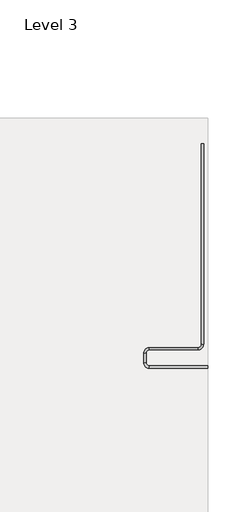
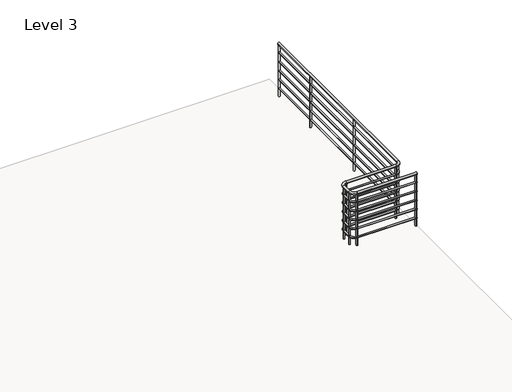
# One storey, part 3 of 4: 1 railing.
"""IFC4 building model written with IfcOpenShell, lengths in millimetres."""

from ifc_helpers import new_model, si_unit, point, frame, frame_2d, origin, place, context, project, spatial, circle_curve, ellipse_curve, trimmed, segment, composite_curve, outline, extrude, element, save
from ifc_brep_helpers import plane_surface, cylinder_surface, revolved_surface, advanced_brep

model = new_model("IFC4")

# Units and contexts
model_context = context("Model", 3, world=origin())
ifc_project = project(units=[si_unit("LENGTHUNIT", "METRE", prefix="MILLI")], contexts=[model_context])

# Site, building, storey
site = spatial("IfcSite", under=ifc_project)
building = spatial("IfcBuilding", under=site)
storey = spatial("IfcBuildingStorey", under=building, Name="Level 3", Elevation=7315.2)

# Railing
placement = place(None, origin())
element("IfcRailing", 1, ObjectType="Handrail - Pipe", at=placement, inside=storey, context=model_context, shape_type="SolidModel", body=[
    advanced_brep(
    [(18023.4049721, 512.0273319, 8210.55), (18023.4049721, 473.9273319, 8210.55), (17058.2049721, 512.0273319, 8210.55), (17058.2049721, 473.9273319, 8210.55), (16962.9549721, 569.1773319, 8210.55), (17001.0549721, 569.1773319, 8210.55), (17001.0549721, 721.5773319, 8210.55), (16962.9549721, 721.5773319, 8210.55), (17058.2049721, 816.8273319, 8210.55), (17058.2049721, 778.7273319, 8210.55), (17861.7339721, 778.7273319, 8210.55), (17861.7339721, 816.8273319, 8210.55), (17956.9839721, 4202.9648319, 8210.55), (17918.8839721, 4202.9648319, 8210.55), (17918.8839721, 873.9773319, 8210.55), (17956.9839721, 873.9773319, 8210.55)],
    [
        (0, 1, circle_curve(frame((18023.4049721, 492.9773319, 8210.55), z_axis=(1.0, 0.0, 0.0), x_axis=(0.0, -1.0, 0.0)), 19.05)),
        (1, 0, circle_curve(frame((18023.4049721, 492.9773319, 8210.55), z_axis=(1.0, 0.0, 0.0), x_axis=(0.0, -1.0, 0.0)), 19.05)),
        (0, 2),
        (2, 3, circle_curve(frame((17058.2049721, 492.9773319, 8210.55), z_axis=(1.0, 0.0, 0.0), x_axis=(0.0, -1.0, 0.0)), 19.05)),
        (3, 1),
        (3, 2, circle_curve(frame((17058.2049721, 492.9773319, 8210.55), z_axis=(1.0, 0.0, 0.0), x_axis=(0.0, -1.0, 0.0)), 19.05)),
        (4, 5, circle_curve(frame((16982.0049721, 569.1773319, 8210.55), z_axis=(0.0, 1.0, 0.0), x_axis=(-1.0, 0.0, 0.0)), 19.05)),
        (5, 6),
        (6, 7, circle_curve(frame((16982.0049721, 721.5773319, 8210.55), z_axis=(0.0, -1.0, 0.0), x_axis=(-1.0, 0.0, 0.0)), 19.05)),
        (7, 4),
        (5, 4, circle_curve(frame((16982.0049721, 569.1773319, 8210.55), z_axis=(0.0, 1.0, 0.0), x_axis=(-1.0, 0.0, 0.0)), 19.05)),
        (7, 6, circle_curve(frame((16982.0049721, 721.5773319, 8210.55), z_axis=(0.0, -1.0, 0.0), x_axis=(-1.0, 0.0, 0.0)), 19.05)),
        (8, 9, circle_curve(frame((17058.2049721, 797.7773319, 8210.55), z_axis=(1.0, 0.0, 0.0), x_axis=(0.0, 1.0, 0.0)), 19.05)),
        (9, 10),
        (10, 11, circle_curve(frame((17861.7339721, 797.7773319, 8210.55), z_axis=(-1.0, 0.0, 0.0), x_axis=(0.0, 1.0, 0.0)), 19.05)),
        (11, 8),
        (9, 8, circle_curve(frame((17058.2049721, 797.7773319, 8210.55), z_axis=(1.0, 0.0, 0.0), x_axis=(0.0, 1.0, 0.0)), 19.05)),
        (11, 10, circle_curve(frame((17861.7339721, 797.7773319, 8210.55), z_axis=(-1.0, 0.0, 0.0), x_axis=(0.0, 1.0, 0.0)), 19.05)),
        (12, 13, circle_curve(frame((17937.9339721, 4202.9648319, 8210.55), z_axis=(0.0, 1.0, 0.0), x_axis=(-1.0, 0.0, 0.0)), 19.05)),
        (13, 12, circle_curve(frame((17937.9339721, 4202.9648319, 8210.55), z_axis=(0.0, 1.0, 0.0), x_axis=(-1.0, 0.0, 0.0)), 19.05)),
        (14, 15, circle_curve(frame((17937.9339721, 873.9773319, 8210.55), z_axis=(0.0, 1.0, 0.0), x_axis=(-1.0, 0.0, 0.0)), 19.05)),
        (15, 12),
        (13, 14),
        (15, 14, circle_curve(frame((17937.9339721, 873.9773319, 8210.55), z_axis=(0.0, 1.0, 0.0), x_axis=(-1.0, 0.0, 0.0)), 19.05)),
        (4, 3, circle_curve(frame((17058.2049721, 569.1773319, 8210.55), z_axis=(0.0, 0.0, 1.0), x_axis=(0.0, -1.0, 0.0)), 95.25)),
        (2, 5, circle_curve(frame((17058.2049721, 569.1773319, 8210.55), z_axis=(0.0, 0.0, -1.0), x_axis=(0.0, -1.0, 0.0)), 57.15)),
        (8, 7, circle_curve(frame((17058.2049721, 721.5773319, 8210.55), z_axis=(0.0, 0.0, 1.0), x_axis=(-1.0, 0.0, 0.0)), 95.25)),
        (6, 9, circle_curve(frame((17058.2049721, 721.5773319, 8210.55), z_axis=(0.0, 0.0, -1.0), x_axis=(-1.0, 0.0, 0.0)), 57.15)),
        (14, 11, circle_curve(frame((17861.7339721, 873.9773319, 8210.55), z_axis=(0.0, 0.0, -1.0), x_axis=(0.0, -1.0, 0.0)), 57.15)),
        (10, 15, circle_curve(frame((17861.7339721, 873.9773319, 8210.55), z_axis=(0.0, 0.0, 1.0), x_axis=(0.0, -1.0, 0.0)), 95.25)),
    ],
    [
        plane_surface(frame((18023.4049721, 492.9773319, 8229.6), z_axis=(1.0, 0.0, 0.0), x_axis=(0.0, -1.0, 0.0))),
        cylinder_surface(frame((18023.4049721, 492.9773319, 8210.55), z_axis=(1.0, 0.0, 0.0), x_axis=(0.0, -1.0, 0.0)), 19.05),
        cylinder_surface(frame((16982.0049721, 569.1773319, 8210.55), z_axis=(0.0, -1.0, 0.0), x_axis=(-1.0, 0.0, 0.0)), 19.05),
        cylinder_surface(frame((17058.2049721, 797.7773319, 8210.55), z_axis=(-1.0, 0.0, 0.0), x_axis=(0.0, 1.0, 0.0)), 19.05),
        plane_surface(frame((17937.9339721, 4202.9648319, 8229.6), z_axis=(0.0, 1.0, 0.0), x_axis=(0.0, 0.0, 1.0))),
        cylinder_surface(frame((17937.9339721, 873.9773319, 8210.55), z_axis=(0.0, -1.0, 0.0), x_axis=(-1.0, 0.0, 0.0)), 19.05),
        revolved_surface(trimmed(ellipse_curve(frame((17058.2049721, 492.9773319, 8210.55), z_axis=(1.0, 0.0, 0.0), x_axis=(0.0, -1.0, 0.0)), 19.05, 19.05), [point((17058.2049721, 512.0273319, 8210.55))], [point((17058.2049721, 473.9273319, 8210.55))], True, "CARTESIAN"), (17058.2049721, 569.1773319, 8229.6), (0.0, 0.0, -1.0)),
        revolved_surface(trimmed(ellipse_curve(frame((17058.2049721, 492.9773319, 8210.55), z_axis=(1.0, 0.0, 0.0), x_axis=(0.0, -1.0, 0.0)), 19.05, 19.05), [point((17058.2049721, 473.9273319, 8210.55))], [point((17058.2049721, 512.0273319, 8210.55))], True, "CARTESIAN"), (17058.2049721, 569.1773319, 8229.6), (0.0, 0.0, -1.0)),
        revolved_surface(trimmed(ellipse_curve(frame((16982.0049721, 721.5773319, 8210.55), z_axis=(0.0, -1.0, 0.0), x_axis=(-1.0, 0.0, 0.0)), 19.05, 19.05), [point((17001.0549721, 721.5773319, 8210.55))], [point((16962.9549721, 721.5773319, 8210.55))], True, "CARTESIAN"), (17058.2049721, 721.5773319, 8229.6), (0.0, 0.0, -1.0)),
        revolved_surface(trimmed(ellipse_curve(frame((16982.0049721, 721.5773319, 8210.55), z_axis=(0.0, -1.0, 0.0), x_axis=(-1.0, 0.0, 0.0)), 19.05, 19.05), [point((16962.9549721, 721.5773319, 8210.55))], [point((17001.0549721, 721.5773319, 8210.55))], True, "CARTESIAN"), (17058.2049721, 721.5773319, 8229.6), (0.0, 0.0, -1.0)),
        revolved_surface(trimmed(ellipse_curve(frame((17861.7339721, 797.7773319, 8210.55), z_axis=(-1.0, 0.0, 0.0), x_axis=(0.0, 1.0, 0.0)), 19.05, 19.05), [point((17861.7339721, 778.7273319, 8210.55))], [point((17861.7339721, 816.8273319, 8210.55))], True, "CARTESIAN"), (17861.7339721, 873.9773319, 8229.6), (0.0, 0.0, 1.0)),
        revolved_surface(trimmed(ellipse_curve(frame((17861.7339721, 797.7773319, 8210.55), z_axis=(-1.0, 0.0, 0.0), x_axis=(0.0, 1.0, 0.0)), 19.05, 19.05), [point((17861.7339721, 816.8273319, 8210.55))], [point((17861.7339721, 778.7273319, 8210.55))], True, "CARTESIAN"), (17861.7339721, 873.9773319, 8229.6), (0.0, 0.0, 1.0)),
    ],
    [
        (0, [[1, 2]]),
        (1, [[-1, 3, 4, 5]]),
        (1, [[-2, -5, 6, -3]]),
        (2, [[7, 8, 9, 10]]),
        (2, [[11, -10, 12, -8]]),
        (3, [[13, 14, 15, 16]]),
        (3, [[17, -16, 18, -14]]),
        (4, [[19, 20]]),
        (5, [[21, 22, -20, 23]]),
        (5, [[24, -23, -19, -22]]),
        (6, [[25, -4, 26, -7]]),
        (7, [[-26, -6, -25, -11]]),
        (8, [[27, -9, 28, -13]]),
        (9, [[-28, -12, -27, -17]]),
        (10, [[29, -15, 30, -21]]),
        (11, [[-30, -18, -29, -24]]),
    ],
),
    advanced_brep(
    [(18023.4049721, 505.6773319, 8064.5), (18023.4049721, 480.2773319, 8064.5), (17058.2049721, 480.2773319, 8064.5), (17058.2049721, 505.6773319, 8064.5), (16994.7049721, 569.1773319, 8064.5), (16969.3049721, 569.1773319, 8064.5), (16969.3049721, 721.5773319, 8064.5), (16994.7049721, 721.5773319, 8064.5), (17058.2049721, 785.0773319, 8064.5), (17058.2049721, 810.4773319, 8064.5), (17861.7339721, 810.4773319, 8064.5), (17861.7339721, 785.0773319, 8064.5), (17950.6339721, 4202.9648319, 8064.5), (17925.2339721, 4202.9648319, 8064.5), (17950.6339721, 873.9773319, 8064.5), (17925.2339721, 873.9773319, 8064.5)],
    [
        (0, 1, circle_curve(frame((18023.4049721, 492.9773319, 8064.5), z_axis=(1.0, 0.0, 0.0), x_axis=(0.0, -1.0, 0.0)), 12.7)),
        (1, 0, circle_curve(frame((18023.4049721, 492.9773319, 8064.5), z_axis=(1.0, 0.0, 0.0), x_axis=(0.0, -1.0, 0.0)), 12.7)),
        (1, 2),
        (2, 3, circle_curve(frame((17058.2049721, 492.9773319, 8064.5), z_axis=(1.0, 0.0, 0.0), x_axis=(0.0, -1.0, 0.0)), 12.7)),
        (3, 0),
        (3, 2, circle_curve(frame((17058.2049721, 492.9773319, 8064.5), z_axis=(1.0, 0.0, 0.0), x_axis=(0.0, -1.0, 0.0)), 12.7)),
        (4, 5, circle_curve(frame((16982.0049721, 569.1773319, 8064.5), z_axis=(0.0, 1.0, 0.0), x_axis=(-1.0, 0.0, 0.0)), 12.7)),
        (5, 6),
        (6, 7, circle_curve(frame((16982.0049721, 721.5773319, 8064.5), z_axis=(0.0, -1.0, 0.0), x_axis=(-1.0, 0.0, 0.0)), 12.7)),
        (7, 4),
        (5, 4, circle_curve(frame((16982.0049721, 569.1773319, 8064.5), z_axis=(0.0, 1.0, 0.0), x_axis=(-1.0, 0.0, 0.0)), 12.7)),
        (7, 6, circle_curve(frame((16982.0049721, 721.5773319, 8064.5), z_axis=(0.0, -1.0, 0.0), x_axis=(-1.0, 0.0, 0.0)), 12.7)),
        (8, 9, circle_curve(frame((17058.2049721, 797.7773319, 8064.5), z_axis=(1.0, 0.0, 0.0), x_axis=(0.0, 1.0, 0.0)), 12.7)),
        (9, 10),
        (10, 11, circle_curve(frame((17861.7339721, 797.7773319, 8064.5), z_axis=(-1.0, 0.0, 0.0), x_axis=(0.0, 1.0, 0.0)), 12.7)),
        (11, 8),
        (9, 8, circle_curve(frame((17058.2049721, 797.7773319, 8064.5), z_axis=(1.0, 0.0, 0.0), x_axis=(0.0, 1.0, 0.0)), 12.7)),
        (11, 10, circle_curve(frame((17861.7339721, 797.7773319, 8064.5), z_axis=(-1.0, 0.0, 0.0), x_axis=(0.0, 1.0, 0.0)), 12.7)),
        (12, 13, circle_curve(frame((17937.9339721, 4202.9648319, 8064.5), z_axis=(0.0, 1.0, 0.0), x_axis=(-1.0, 0.0, 0.0)), 12.7)),
        (13, 12, circle_curve(frame((17937.9339721, 4202.9648319, 8064.5), z_axis=(0.0, 1.0, 0.0), x_axis=(-1.0, 0.0, 0.0)), 12.7)),
        (14, 15, circle_curve(frame((17937.9339721, 873.9773319, 8064.5), z_axis=(0.0, 1.0, 0.0), x_axis=(-1.0, 0.0, 0.0)), 12.7)),
        (15, 13),
        (12, 14),
        (15, 14, circle_curve(frame((17937.9339721, 873.9773319, 8064.5), z_axis=(0.0, 1.0, 0.0), x_axis=(-1.0, 0.0, 0.0)), 12.7)),
        (4, 3, circle_curve(frame((17058.2049721, 569.1773319, 8064.5), z_axis=(0.0, 0.0, 1.0), x_axis=(0.0, -1.0, 0.0)), 63.5)),
        (2, 5, circle_curve(frame((17058.2049721, 569.1773319, 8064.5), z_axis=(0.0, 0.0, -1.0), x_axis=(0.0, -1.0, 0.0)), 88.9)),
        (8, 7, circle_curve(frame((17058.2049721, 721.5773319, 8064.5), z_axis=(0.0, 0.0, 1.0), x_axis=(-1.0, 0.0, 0.0)), 63.5)),
        (6, 9, circle_curve(frame((17058.2049721, 721.5773319, 8064.5), z_axis=(0.0, 0.0, -1.0), x_axis=(-1.0, 0.0, 0.0)), 88.9)),
        (14, 11, circle_curve(frame((17861.7339721, 873.9773319, 8064.5), z_axis=(0.0, 0.0, -1.0), x_axis=(0.0, -1.0, 0.0)), 88.9)),
        (10, 15, circle_curve(frame((17861.7339721, 873.9773319, 8064.5), z_axis=(0.0, 0.0, 1.0), x_axis=(0.0, -1.0, 0.0)), 63.5)),
    ],
    [
        plane_surface(frame((18023.4049721, 492.9773319, 8077.2), z_axis=(1.0, 0.0, 0.0), x_axis=(0.0, -1.0, 0.0))),
        cylinder_surface(frame((18023.4049721, 492.9773319, 8064.5), z_axis=(1.0, 0.0, 0.0), x_axis=(0.0, -1.0, 0.0)), 12.7),
        cylinder_surface(frame((16982.0049721, 569.1773319, 8064.5), z_axis=(0.0, -1.0, 0.0), x_axis=(-1.0, 0.0, 0.0)), 12.7),
        cylinder_surface(frame((17058.2049721, 797.7773319, 8064.5), z_axis=(-1.0, 0.0, 0.0), x_axis=(0.0, 1.0, 0.0)), 12.7),
        plane_surface(frame((17937.9339721, 4202.9648319, 8077.2), z_axis=(0.0, 1.0, 0.0), x_axis=(0.0, 0.0, 1.0))),
        cylinder_surface(frame((17937.9339721, 873.9773319, 8064.5), z_axis=(0.0, -1.0, 0.0), x_axis=(-1.0, 0.0, 0.0)), 12.7),
        revolved_surface(trimmed(ellipse_curve(frame((17058.2049721, 492.9773319, 8064.5), z_axis=(1.0, 0.0, 0.0), x_axis=(0.0, -1.0, 0.0)), 12.7, 12.7), [point((17058.2049721, 480.2773319, 8064.5))], [point((17058.2049721, 505.6773319, 8064.5))], True, "CARTESIAN"), (17058.2049721, 569.1773319, 8077.2), (0.0, 0.0, -1.0)),
        revolved_surface(trimmed(ellipse_curve(frame((17058.2049721, 492.9773319, 8064.5), z_axis=(1.0, 0.0, 0.0), x_axis=(0.0, -1.0, 0.0)), 12.7, 12.7), [point((17058.2049721, 505.6773319, 8064.5))], [point((17058.2049721, 480.2773319, 8064.5))], True, "CARTESIAN"), (17058.2049721, 569.1773319, 8077.2), (0.0, 0.0, -1.0)),
        revolved_surface(trimmed(ellipse_curve(frame((16982.0049721, 721.5773319, 8064.5), z_axis=(0.0, -1.0, 0.0), x_axis=(-1.0, 0.0, 0.0)), 12.7, 12.7), [point((16969.3049721, 721.5773319, 8064.5))], [point((16994.7049721, 721.5773319, 8064.5))], True, "CARTESIAN"), (17058.2049721, 721.5773319, 8077.2), (0.0, 0.0, -1.0)),
        revolved_surface(trimmed(ellipse_curve(frame((16982.0049721, 721.5773319, 8064.5), z_axis=(0.0, -1.0, 0.0), x_axis=(-1.0, 0.0, 0.0)), 12.7, 12.7), [point((16994.7049721, 721.5773319, 8064.5))], [point((16969.3049721, 721.5773319, 8064.5))], True, "CARTESIAN"), (17058.2049721, 721.5773319, 8077.2), (0.0, 0.0, -1.0)),
        revolved_surface(trimmed(ellipse_curve(frame((17861.7339721, 797.7773319, 8064.5), z_axis=(-1.0, 0.0, 0.0), x_axis=(0.0, 1.0, 0.0)), 12.7, 12.7), [point((17861.7339721, 810.4773319, 8064.5))], [point((17861.7339721, 785.0773319, 8064.5))], True, "CARTESIAN"), (17861.7339721, 873.9773319, 8077.2), (0.0, 0.0, 1.0)),
        revolved_surface(trimmed(ellipse_curve(frame((17861.7339721, 797.7773319, 8064.5), z_axis=(-1.0, 0.0, 0.0), x_axis=(0.0, 1.0, 0.0)), 12.7, 12.7), [point((17861.7339721, 785.0773319, 8064.5))], [point((17861.7339721, 810.4773319, 8064.5))], True, "CARTESIAN"), (17861.7339721, 873.9773319, 8077.2), (0.0, 0.0, 1.0)),
    ],
    [
        (0, [[1, 2]]),
        (1, [[-2, 3, 4, 5]]),
        (1, [[-1, -5, 6, -3]]),
        (2, [[7, 8, 9, 10]]),
        (2, [[11, -10, 12, -8]]),
        (3, [[13, 14, 15, 16]]),
        (3, [[17, -16, 18, -14]]),
        (4, [[19, 20]]),
        (5, [[21, 22, -19, 23]]),
        (5, [[24, -23, -20, -22]]),
        (6, [[25, -4, 26, -7]]),
        (7, [[-26, -6, -25, -11]]),
        (8, [[27, -9, 28, -13]]),
        (9, [[-28, -12, -27, -17]]),
        (10, [[29, -15, 30, -21]]),
        (11, [[-30, -18, -29, -24]]),
    ],
),
    advanced_brep(
    [(18023.4049721, 505.6773319, 7912.1), (18023.4049721, 480.2773319, 7912.1), (17058.2049721, 480.2773319, 7912.1), (17058.2049721, 505.6773319, 7912.1), (16994.7049721, 569.1773319, 7912.1), (16969.3049721, 569.1773319, 7912.1), (16969.3049721, 721.5773319, 7912.1), (16994.7049721, 721.5773319, 7912.1), (17058.2049721, 785.0773319, 7912.1), (17058.2049721, 810.4773319, 7912.1), (17861.7339721, 810.4773319, 7912.1), (17861.7339721, 785.0773319, 7912.1), (17950.6339721, 4202.9648319, 7912.1), (17925.2339721, 4202.9648319, 7912.1), (17950.6339721, 873.9773319, 7912.1), (17925.2339721, 873.9773319, 7912.1)],
    [
        (0, 1, circle_curve(frame((18023.4049721, 492.9773319, 7912.1), z_axis=(1.0, 0.0, 0.0), x_axis=(0.0, -1.0, 0.0)), 12.7)),
        (1, 0, circle_curve(frame((18023.4049721, 492.9773319, 7912.1), z_axis=(1.0, 0.0, 0.0), x_axis=(0.0, -1.0, 0.0)), 12.7)),
        (1, 2),
        (2, 3, circle_curve(frame((17058.2049721, 492.9773319, 7912.1), z_axis=(1.0, 0.0, 0.0), x_axis=(0.0, -1.0, 0.0)), 12.7)),
        (3, 0),
        (3, 2, circle_curve(frame((17058.2049721, 492.9773319, 7912.1), z_axis=(1.0, 0.0, 0.0), x_axis=(0.0, -1.0, 0.0)), 12.7)),
        (4, 5, circle_curve(frame((16982.0049721, 569.1773319, 7912.1), z_axis=(0.0, 1.0, 0.0), x_axis=(-1.0, 0.0, 0.0)), 12.7)),
        (5, 6),
        (6, 7, circle_curve(frame((16982.0049721, 721.5773319, 7912.1), z_axis=(0.0, -1.0, 0.0), x_axis=(-1.0, 0.0, 0.0)), 12.7)),
        (7, 4),
        (5, 4, circle_curve(frame((16982.0049721, 569.1773319, 7912.1), z_axis=(0.0, 1.0, 0.0), x_axis=(-1.0, 0.0, 0.0)), 12.7)),
        (7, 6, circle_curve(frame((16982.0049721, 721.5773319, 7912.1), z_axis=(0.0, -1.0, 0.0), x_axis=(-1.0, 0.0, 0.0)), 12.7)),
        (8, 9, circle_curve(frame((17058.2049721, 797.7773319, 7912.1), z_axis=(1.0, 0.0, 0.0), x_axis=(0.0, 1.0, 0.0)), 12.7)),
        (9, 10),
        (10, 11, circle_curve(frame((17861.7339721, 797.7773319, 7912.1), z_axis=(-1.0, 0.0, 0.0), x_axis=(0.0, 1.0, 0.0)), 12.7)),
        (11, 8),
        (9, 8, circle_curve(frame((17058.2049721, 797.7773319, 7912.1), z_axis=(1.0, 0.0, 0.0), x_axis=(0.0, 1.0, 0.0)), 12.7)),
        (11, 10, circle_curve(frame((17861.7339721, 797.7773319, 7912.1), z_axis=(-1.0, 0.0, 0.0), x_axis=(0.0, 1.0, 0.0)), 12.7)),
        (12, 13, circle_curve(frame((17937.9339721, 4202.9648319, 7912.1), z_axis=(0.0, 1.0, 0.0), x_axis=(-1.0, 0.0, 0.0)), 12.7)),
        (13, 12, circle_curve(frame((17937.9339721, 4202.9648319, 7912.1), z_axis=(0.0, 1.0, 0.0), x_axis=(-1.0, 0.0, 0.0)), 12.7)),
        (14, 15, circle_curve(frame((17937.9339721, 873.9773319, 7912.1), z_axis=(0.0, 1.0, 0.0), x_axis=(-1.0, 0.0, 0.0)), 12.7)),
        (15, 13),
        (12, 14),
        (15, 14, circle_curve(frame((17937.9339721, 873.9773319, 7912.1), z_axis=(0.0, 1.0, 0.0), x_axis=(-1.0, 0.0, 0.0)), 12.7)),
        (4, 3, circle_curve(frame((17058.2049721, 569.1773319, 7912.1), z_axis=(0.0, 0.0, 1.0), x_axis=(0.0, -1.0, 0.0)), 63.5)),
        (2, 5, circle_curve(frame((17058.2049721, 569.1773319, 7912.1), z_axis=(0.0, 0.0, -1.0), x_axis=(0.0, -1.0, 0.0)), 88.9)),
        (8, 7, circle_curve(frame((17058.2049721, 721.5773319, 7912.1), z_axis=(0.0, 0.0, 1.0), x_axis=(-1.0, 0.0, 0.0)), 63.5)),
        (6, 9, circle_curve(frame((17058.2049721, 721.5773319, 7912.1), z_axis=(0.0, 0.0, -1.0), x_axis=(-1.0, 0.0, 0.0)), 88.9)),
        (14, 11, circle_curve(frame((17861.7339721, 873.9773319, 7912.1), z_axis=(0.0, 0.0, -1.0), x_axis=(0.0, -1.0, 0.0)), 88.9)),
        (10, 15, circle_curve(frame((17861.7339721, 873.9773319, 7912.1), z_axis=(0.0, 0.0, 1.0), x_axis=(0.0, -1.0, 0.0)), 63.5)),
    ],
    [
        plane_surface(frame((18023.4049721, 492.9773319, 7924.8), z_axis=(1.0, 0.0, 0.0), x_axis=(0.0, -1.0, 0.0))),
        cylinder_surface(frame((18023.4049721, 492.9773319, 7912.1), z_axis=(1.0, 0.0, 0.0), x_axis=(0.0, -1.0, 0.0)), 12.7),
        cylinder_surface(frame((16982.0049721, 569.1773319, 7912.1), z_axis=(0.0, -1.0, 0.0), x_axis=(-1.0, 0.0, 0.0)), 12.7),
        cylinder_surface(frame((17058.2049721, 797.7773319, 7912.1), z_axis=(-1.0, 0.0, 0.0), x_axis=(0.0, 1.0, 0.0)), 12.7),
        plane_surface(frame((17937.9339721, 4202.9648319, 7924.8), z_axis=(0.0, 1.0, 0.0), x_axis=(0.0, 0.0, 1.0))),
        cylinder_surface(frame((17937.9339721, 873.9773319, 7912.1), z_axis=(0.0, -1.0, 0.0), x_axis=(-1.0, 0.0, 0.0)), 12.7),
        revolved_surface(trimmed(ellipse_curve(frame((17058.2049721, 492.9773319, 7912.1), z_axis=(1.0, 0.0, 0.0), x_axis=(0.0, -1.0, 0.0)), 12.7, 12.7), [point((17058.2049721, 480.2773319, 7912.1))], [point((17058.2049721, 505.6773319, 7912.1))], True, "CARTESIAN"), (17058.2049721, 569.1773319, 7924.8), (0.0, 0.0, -1.0)),
        revolved_surface(trimmed(ellipse_curve(frame((17058.2049721, 492.9773319, 7912.1), z_axis=(1.0, 0.0, 0.0), x_axis=(0.0, -1.0, 0.0)), 12.7, 12.7), [point((17058.2049721, 505.6773319, 7912.1))], [point((17058.2049721, 480.2773319, 7912.1))], True, "CARTESIAN"), (17058.2049721, 569.1773319, 7924.8), (0.0, 0.0, -1.0)),
        revolved_surface(trimmed(ellipse_curve(frame((16982.0049721, 721.5773319, 7912.1), z_axis=(0.0, -1.0, 0.0), x_axis=(-1.0, 0.0, 0.0)), 12.7, 12.7), [point((16969.3049721, 721.5773319, 7912.1))], [point((16994.7049721, 721.5773319, 7912.1))], True, "CARTESIAN"), (17058.2049721, 721.5773319, 7924.8), (0.0, 0.0, -1.0)),
        revolved_surface(trimmed(ellipse_curve(frame((16982.0049721, 721.5773319, 7912.1), z_axis=(0.0, -1.0, 0.0), x_axis=(-1.0, 0.0, 0.0)), 12.7, 12.7), [point((16994.7049721, 721.5773319, 7912.1))], [point((16969.3049721, 721.5773319, 7912.1))], True, "CARTESIAN"), (17058.2049721, 721.5773319, 7924.8), (0.0, 0.0, -1.0)),
        revolved_surface(trimmed(ellipse_curve(frame((17861.7339721, 797.7773319, 7912.1), z_axis=(-1.0, 0.0, 0.0), x_axis=(0.0, 1.0, 0.0)), 12.7, 12.7), [point((17861.7339721, 810.4773319, 7912.1))], [point((17861.7339721, 785.0773319, 7912.1))], True, "CARTESIAN"), (17861.7339721, 873.9773319, 7924.8), (0.0, 0.0, 1.0)),
        revolved_surface(trimmed(ellipse_curve(frame((17861.7339721, 797.7773319, 7912.1), z_axis=(-1.0, 0.0, 0.0), x_axis=(0.0, 1.0, 0.0)), 12.7, 12.7), [point((17861.7339721, 785.0773319, 7912.1))], [point((17861.7339721, 810.4773319, 7912.1))], True, "CARTESIAN"), (17861.7339721, 873.9773319, 7924.8), (0.0, 0.0, 1.0)),
    ],
    [
        (0, [[1, 2]]),
        (1, [[-2, 3, 4, 5]]),
        (1, [[-1, -5, 6, -3]]),
        (2, [[7, 8, 9, 10]]),
        (2, [[11, -10, 12, -8]]),
        (3, [[13, 14, 15, 16]]),
        (3, [[17, -16, 18, -14]]),
        (4, [[19, 20]]),
        (5, [[21, 22, -19, 23]]),
        (5, [[24, -23, -20, -22]]),
        (6, [[25, -4, 26, -7]]),
        (7, [[-26, -6, -25, -11]]),
        (8, [[27, -9, 28, -13]]),
        (9, [[-28, -12, -27, -17]]),
        (10, [[29, -15, 30, -21]]),
        (11, [[-30, -18, -29, -24]]),
    ],
),
    advanced_brep(
    [(18023.4049721, 505.6773319, 7759.7), (18023.4049721, 480.2773319, 7759.7), (17058.2049721, 480.2773319, 7759.7), (17058.2049721, 505.6773319, 7759.7), (16994.7049721, 569.1773319, 7759.7), (16969.3049721, 569.1773319, 7759.7), (16969.3049721, 721.5773319, 7759.7), (16994.7049721, 721.5773319, 7759.7), (17058.2049721, 785.0773319, 7759.7), (17058.2049721, 810.4773319, 7759.7), (17861.7339721, 810.4773319, 7759.7), (17861.7339721, 785.0773319, 7759.7), (17950.6339721, 4202.9648319, 7759.7), (17925.2339721, 4202.9648319, 7759.7), (17950.6339721, 873.9773319, 7759.7), (17925.2339721, 873.9773319, 7759.7)],
    [
        (0, 1, circle_curve(frame((18023.4049721, 492.9773319, 7759.7), z_axis=(1.0, 0.0, 0.0), x_axis=(0.0, -1.0, 0.0)), 12.7)),
        (1, 0, circle_curve(frame((18023.4049721, 492.9773319, 7759.7), z_axis=(1.0, 0.0, 0.0), x_axis=(0.0, -1.0, 0.0)), 12.7)),
        (1, 2),
        (2, 3, circle_curve(frame((17058.2049721, 492.9773319, 7759.7), z_axis=(1.0, 0.0, 0.0), x_axis=(0.0, -1.0, 0.0)), 12.7)),
        (3, 0),
        (3, 2, circle_curve(frame((17058.2049721, 492.9773319, 7759.7), z_axis=(1.0, 0.0, 0.0), x_axis=(0.0, -1.0, 0.0)), 12.7)),
        (4, 5, circle_curve(frame((16982.0049721, 569.1773319, 7759.7), z_axis=(0.0, 1.0, 0.0), x_axis=(-1.0, 0.0, 0.0)), 12.7)),
        (5, 6),
        (6, 7, circle_curve(frame((16982.0049721, 721.5773319, 7759.7), z_axis=(0.0, -1.0, 0.0), x_axis=(-1.0, 0.0, 0.0)), 12.7)),
        (7, 4),
        (5, 4, circle_curve(frame((16982.0049721, 569.1773319, 7759.7), z_axis=(0.0, 1.0, 0.0), x_axis=(-1.0, 0.0, 0.0)), 12.7)),
        (7, 6, circle_curve(frame((16982.0049721, 721.5773319, 7759.7), z_axis=(0.0, -1.0, 0.0), x_axis=(-1.0, 0.0, 0.0)), 12.7)),
        (8, 9, circle_curve(frame((17058.2049721, 797.7773319, 7759.7), z_axis=(1.0, 0.0, 0.0), x_axis=(0.0, 1.0, 0.0)), 12.7)),
        (9, 10),
        (10, 11, circle_curve(frame((17861.7339721, 797.7773319, 7759.7), z_axis=(-1.0, 0.0, 0.0), x_axis=(0.0, 1.0, 0.0)), 12.7)),
        (11, 8),
        (9, 8, circle_curve(frame((17058.2049721, 797.7773319, 7759.7), z_axis=(1.0, 0.0, 0.0), x_axis=(0.0, 1.0, 0.0)), 12.7)),
        (11, 10, circle_curve(frame((17861.7339721, 797.7773319, 7759.7), z_axis=(-1.0, 0.0, 0.0), x_axis=(0.0, 1.0, 0.0)), 12.7)),
        (12, 13, circle_curve(frame((17937.9339721, 4202.9648319, 7759.7), z_axis=(0.0, 1.0, 0.0), x_axis=(-1.0, 0.0, 0.0)), 12.7)),
        (13, 12, circle_curve(frame((17937.9339721, 4202.9648319, 7759.7), z_axis=(0.0, 1.0, 0.0), x_axis=(-1.0, 0.0, 0.0)), 12.7)),
        (14, 15, circle_curve(frame((17937.9339721, 873.9773319, 7759.7), z_axis=(0.0, 1.0, 0.0), x_axis=(-1.0, 0.0, 0.0)), 12.7)),
        (15, 13),
        (12, 14),
        (15, 14, circle_curve(frame((17937.9339721, 873.9773319, 7759.7), z_axis=(0.0, 1.0, 0.0), x_axis=(-1.0, 0.0, 0.0)), 12.7)),
        (4, 3, circle_curve(frame((17058.2049721, 569.1773319, 7759.7), z_axis=(0.0, 0.0, 1.0), x_axis=(0.0, -1.0, 0.0)), 63.5)),
        (2, 5, circle_curve(frame((17058.2049721, 569.1773319, 7759.7), z_axis=(0.0, 0.0, -1.0), x_axis=(0.0, -1.0, 0.0)), 88.9)),
        (8, 7, circle_curve(frame((17058.2049721, 721.5773319, 7759.7), z_axis=(0.0, 0.0, 1.0), x_axis=(-1.0, 0.0, 0.0)), 63.5)),
        (6, 9, circle_curve(frame((17058.2049721, 721.5773319, 7759.7), z_axis=(0.0, 0.0, -1.0), x_axis=(-1.0, 0.0, 0.0)), 88.9)),
        (14, 11, circle_curve(frame((17861.7339721, 873.9773319, 7759.7), z_axis=(0.0, 0.0, -1.0), x_axis=(0.0, -1.0, 0.0)), 88.9)),
        (10, 15, circle_curve(frame((17861.7339721, 873.9773319, 7759.7), z_axis=(0.0, 0.0, 1.0), x_axis=(0.0, -1.0, 0.0)), 63.5)),
    ],
    [
        plane_surface(frame((18023.4049721, 492.9773319, 7772.4), z_axis=(1.0, 0.0, 0.0), x_axis=(0.0, -1.0, 0.0))),
        cylinder_surface(frame((18023.4049721, 492.9773319, 7759.7), z_axis=(1.0, 0.0, 0.0), x_axis=(0.0, -1.0, 0.0)), 12.7),
        cylinder_surface(frame((16982.0049721, 569.1773319, 7759.7), z_axis=(0.0, -1.0, 0.0), x_axis=(-1.0, 0.0, 0.0)), 12.7),
        cylinder_surface(frame((17058.2049721, 797.7773319, 7759.7), z_axis=(-1.0, 0.0, 0.0), x_axis=(0.0, 1.0, 0.0)), 12.7),
        plane_surface(frame((17937.9339721, 4202.9648319, 7772.4), z_axis=(0.0, 1.0, 0.0), x_axis=(0.0, 0.0, 1.0))),
        cylinder_surface(frame((17937.9339721, 873.9773319, 7759.7), z_axis=(0.0, -1.0, 0.0), x_axis=(-1.0, 0.0, 0.0)), 12.7),
        revolved_surface(trimmed(ellipse_curve(frame((17058.2049721, 492.9773319, 7759.7), z_axis=(1.0, 0.0, 0.0), x_axis=(0.0, -1.0, 0.0)), 12.7, 12.7), [point((17058.2049721, 480.2773319, 7759.7))], [point((17058.2049721, 505.6773319, 7759.7))], True, "CARTESIAN"), (17058.2049721, 569.1773319, 7772.4), (0.0, 0.0, -1.0)),
        revolved_surface(trimmed(ellipse_curve(frame((17058.2049721, 492.9773319, 7759.7), z_axis=(1.0, 0.0, 0.0), x_axis=(0.0, -1.0, 0.0)), 12.7, 12.7), [point((17058.2049721, 505.6773319, 7759.7))], [point((17058.2049721, 480.2773319, 7759.7))], True, "CARTESIAN"), (17058.2049721, 569.1773319, 7772.4), (0.0, 0.0, -1.0)),
        revolved_surface(trimmed(ellipse_curve(frame((16982.0049721, 721.5773319, 7759.7), z_axis=(0.0, -1.0, 0.0), x_axis=(-1.0, 0.0, 0.0)), 12.7, 12.7), [point((16969.3049721, 721.5773319, 7759.7))], [point((16994.7049721, 721.5773319, 7759.7))], True, "CARTESIAN"), (17058.2049721, 721.5773319, 7772.4), (0.0, 0.0, -1.0)),
        revolved_surface(trimmed(ellipse_curve(frame((16982.0049721, 721.5773319, 7759.7), z_axis=(0.0, -1.0, 0.0), x_axis=(-1.0, 0.0, 0.0)), 12.7, 12.7), [point((16994.7049721, 721.5773319, 7759.7))], [point((16969.3049721, 721.5773319, 7759.7))], True, "CARTESIAN"), (17058.2049721, 721.5773319, 7772.4), (0.0, 0.0, -1.0)),
        revolved_surface(trimmed(ellipse_curve(frame((17861.7339721, 797.7773319, 7759.7), z_axis=(-1.0, 0.0, 0.0), x_axis=(0.0, 1.0, 0.0)), 12.7, 12.7), [point((17861.7339721, 810.4773319, 7759.7))], [point((17861.7339721, 785.0773319, 7759.7))], True, "CARTESIAN"), (17861.7339721, 873.9773319, 7772.4), (0.0, 0.0, 1.0)),
        revolved_surface(trimmed(ellipse_curve(frame((17861.7339721, 797.7773319, 7759.7), z_axis=(-1.0, 0.0, 0.0), x_axis=(0.0, 1.0, 0.0)), 12.7, 12.7), [point((17861.7339721, 785.0773319, 7759.7))], [point((17861.7339721, 810.4773319, 7759.7))], True, "CARTESIAN"), (17861.7339721, 873.9773319, 7772.4), (0.0, 0.0, 1.0)),
    ],
    [
        (0, [[1, 2]]),
        (1, [[-2, 3, 4, 5]]),
        (1, [[-1, -5, 6, -3]]),
        (2, [[7, 8, 9, 10]]),
        (2, [[11, -10, 12, -8]]),
        (3, [[13, 14, 15, 16]]),
        (3, [[17, -16, 18, -14]]),
        (4, [[19, 20]]),
        (5, [[21, 22, -19, 23]]),
        (5, [[24, -23, -20, -22]]),
        (6, [[25, -4, 26, -7]]),
        (7, [[-26, -6, -25, -11]]),
        (8, [[27, -9, 28, -13]]),
        (9, [[-28, -12, -27, -17]]),
        (10, [[29, -15, 30, -21]]),
        (11, [[-30, -18, -29, -24]]),
    ],
),
    advanced_brep(
    [(18023.4049721, 505.6773319, 7607.3), (18023.4049721, 480.2773319, 7607.3), (17058.2049721, 480.2773319, 7607.3), (17058.2049721, 505.6773319, 7607.3), (16994.7049721, 569.1773319, 7607.3), (16969.3049721, 569.1773319, 7607.3), (16969.3049721, 721.5773319, 7607.3), (16994.7049721, 721.5773319, 7607.3), (17058.2049721, 785.0773319, 7607.3), (17058.2049721, 810.4773319, 7607.3), (17861.7339721, 810.4773319, 7607.3), (17861.7339721, 785.0773319, 7607.3), (17950.6339721, 4202.9648319, 7607.3), (17925.2339721, 4202.9648319, 7607.3), (17950.6339721, 873.9773319, 7607.3), (17925.2339721, 873.9773319, 7607.3)],
    [
        (0, 1, circle_curve(frame((18023.4049721, 492.9773319, 7607.3), z_axis=(1.0, 0.0, 0.0), x_axis=(0.0, -1.0, 0.0)), 12.7)),
        (1, 0, circle_curve(frame((18023.4049721, 492.9773319, 7607.3), z_axis=(1.0, 0.0, 0.0), x_axis=(0.0, -1.0, 0.0)), 12.7)),
        (1, 2),
        (2, 3, circle_curve(frame((17058.2049721, 492.9773319, 7607.3), z_axis=(1.0, 0.0, 0.0), x_axis=(0.0, -1.0, 0.0)), 12.7)),
        (3, 0),
        (3, 2, circle_curve(frame((17058.2049721, 492.9773319, 7607.3), z_axis=(1.0, 0.0, 0.0), x_axis=(0.0, -1.0, 0.0)), 12.7)),
        (4, 5, circle_curve(frame((16982.0049721, 569.1773319, 7607.3), z_axis=(0.0, 1.0, 0.0), x_axis=(-1.0, 0.0, 0.0)), 12.7)),
        (5, 6),
        (6, 7, circle_curve(frame((16982.0049721, 721.5773319, 7607.3), z_axis=(0.0, -1.0, 0.0), x_axis=(-1.0, 0.0, 0.0)), 12.7)),
        (7, 4),
        (5, 4, circle_curve(frame((16982.0049721, 569.1773319, 7607.3), z_axis=(0.0, 1.0, 0.0), x_axis=(-1.0, 0.0, 0.0)), 12.7)),
        (7, 6, circle_curve(frame((16982.0049721, 721.5773319, 7607.3), z_axis=(0.0, -1.0, 0.0), x_axis=(-1.0, 0.0, 0.0)), 12.7)),
        (8, 9, circle_curve(frame((17058.2049721, 797.7773319, 7607.3), z_axis=(1.0, 0.0, 0.0), x_axis=(0.0, 1.0, 0.0)), 12.7)),
        (9, 10),
        (10, 11, circle_curve(frame((17861.7339721, 797.7773319, 7607.3), z_axis=(-1.0, 0.0, 0.0), x_axis=(0.0, 1.0, 0.0)), 12.7)),
        (11, 8),
        (9, 8, circle_curve(frame((17058.2049721, 797.7773319, 7607.3), z_axis=(1.0, 0.0, 0.0), x_axis=(0.0, 1.0, 0.0)), 12.7)),
        (11, 10, circle_curve(frame((17861.7339721, 797.7773319, 7607.3), z_axis=(-1.0, 0.0, 0.0), x_axis=(0.0, 1.0, 0.0)), 12.7)),
        (12, 13, circle_curve(frame((17937.9339721, 4202.9648319, 7607.3), z_axis=(0.0, 1.0, 0.0), x_axis=(-1.0, 0.0, 0.0)), 12.7)),
        (13, 12, circle_curve(frame((17937.9339721, 4202.9648319, 7607.3), z_axis=(0.0, 1.0, 0.0), x_axis=(-1.0, 0.0, 0.0)), 12.7)),
        (14, 15, circle_curve(frame((17937.9339721, 873.9773319, 7607.3), z_axis=(0.0, 1.0, 0.0), x_axis=(-1.0, 0.0, 0.0)), 12.7)),
        (15, 13),
        (12, 14),
        (15, 14, circle_curve(frame((17937.9339721, 873.9773319, 7607.3), z_axis=(0.0, 1.0, 0.0), x_axis=(-1.0, 0.0, 0.0)), 12.7)),
        (4, 3, circle_curve(frame((17058.2049721, 569.1773319, 7607.3), z_axis=(0.0, 0.0, 1.0), x_axis=(0.0, -1.0, 0.0)), 63.5)),
        (2, 5, circle_curve(frame((17058.2049721, 569.1773319, 7607.3), z_axis=(0.0, 0.0, -1.0), x_axis=(0.0, -1.0, 0.0)), 88.9)),
        (8, 7, circle_curve(frame((17058.2049721, 721.5773319, 7607.3), z_axis=(0.0, 0.0, 1.0), x_axis=(-1.0, 0.0, 0.0)), 63.5)),
        (6, 9, circle_curve(frame((17058.2049721, 721.5773319, 7607.3), z_axis=(0.0, 0.0, -1.0), x_axis=(-1.0, 0.0, 0.0)), 88.9)),
        (14, 11, circle_curve(frame((17861.7339721, 873.9773319, 7607.3), z_axis=(0.0, 0.0, -1.0), x_axis=(0.0, -1.0, 0.0)), 88.9)),
        (10, 15, circle_curve(frame((17861.7339721, 873.9773319, 7607.3), z_axis=(0.0, 0.0, 1.0), x_axis=(0.0, -1.0, 0.0)), 63.5)),
    ],
    [
        plane_surface(frame((18023.4049721, 492.9773319, 7620.0), z_axis=(1.0, 0.0, 0.0), x_axis=(0.0, -1.0, 0.0))),
        cylinder_surface(frame((18023.4049721, 492.9773319, 7607.3), z_axis=(1.0, 0.0, 0.0), x_axis=(0.0, -1.0, 0.0)), 12.7),
        cylinder_surface(frame((16982.0049721, 569.1773319, 7607.3), z_axis=(0.0, -1.0, 0.0), x_axis=(-1.0, 0.0, 0.0)), 12.7),
        cylinder_surface(frame((17058.2049721, 797.7773319, 7607.3), z_axis=(-1.0, 0.0, 0.0), x_axis=(0.0, 1.0, 0.0)), 12.7),
        plane_surface(frame((17937.9339721, 4202.9648319, 7620.0), z_axis=(0.0, 1.0, 0.0), x_axis=(0.0, 0.0, 1.0))),
        cylinder_surface(frame((17937.9339721, 873.9773319, 7607.3), z_axis=(0.0, -1.0, 0.0), x_axis=(-1.0, 0.0, 0.0)), 12.7),
        revolved_surface(trimmed(ellipse_curve(frame((17058.2049721, 492.9773319, 7607.3), z_axis=(1.0, 0.0, 0.0), x_axis=(0.0, -1.0, 0.0)), 12.7, 12.7), [point((17058.2049721, 480.2773319, 7607.3))], [point((17058.2049721, 505.6773319, 7607.3))], True, "CARTESIAN"), (17058.2049721, 569.1773319, 7620.0), (0.0, 0.0, -1.0)),
        revolved_surface(trimmed(ellipse_curve(frame((17058.2049721, 492.9773319, 7607.3), z_axis=(1.0, 0.0, 0.0), x_axis=(0.0, -1.0, 0.0)), 12.7, 12.7), [point((17058.2049721, 505.6773319, 7607.3))], [point((17058.2049721, 480.2773319, 7607.3))], True, "CARTESIAN"), (17058.2049721, 569.1773319, 7620.0), (0.0, 0.0, -1.0)),
        revolved_surface(trimmed(ellipse_curve(frame((16982.0049721, 721.5773319, 7607.3), z_axis=(0.0, -1.0, 0.0), x_axis=(-1.0, 0.0, 0.0)), 12.7, 12.7), [point((16969.3049721, 721.5773319, 7607.3))], [point((16994.7049721, 721.5773319, 7607.3))], True, "CARTESIAN"), (17058.2049721, 721.5773319, 7620.0), (0.0, 0.0, -1.0)),
        revolved_surface(trimmed(ellipse_curve(frame((16982.0049721, 721.5773319, 7607.3), z_axis=(0.0, -1.0, 0.0), x_axis=(-1.0, 0.0, 0.0)), 12.7, 12.7), [point((16994.7049721, 721.5773319, 7607.3))], [point((16969.3049721, 721.5773319, 7607.3))], True, "CARTESIAN"), (17058.2049721, 721.5773319, 7620.0), (0.0, 0.0, -1.0)),
        revolved_surface(trimmed(ellipse_curve(frame((17861.7339721, 797.7773319, 7607.3), z_axis=(-1.0, 0.0, 0.0), x_axis=(0.0, 1.0, 0.0)), 12.7, 12.7), [point((17861.7339721, 810.4773319, 7607.3))], [point((17861.7339721, 785.0773319, 7607.3))], True, "CARTESIAN"), (17861.7339721, 873.9773319, 7620.0), (0.0, 0.0, 1.0)),
        revolved_surface(trimmed(ellipse_curve(frame((17861.7339721, 797.7773319, 7607.3), z_axis=(-1.0, 0.0, 0.0), x_axis=(0.0, 1.0, 0.0)), 12.7, 12.7), [point((17861.7339721, 785.0773319, 7607.3))], [point((17861.7339721, 810.4773319, 7607.3))], True, "CARTESIAN"), (17861.7339721, 873.9773319, 7620.0), (0.0, 0.0, 1.0)),
    ],
    [
        (0, [[1, 2]]),
        (1, [[-2, 3, 4, 5]]),
        (1, [[-1, -5, 6, -3]]),
        (2, [[7, 8, 9, 10]]),
        (2, [[11, -10, 12, -8]]),
        (3, [[13, 14, 15, 16]]),
        (3, [[17, -16, 18, -14]]),
        (4, [[19, 20]]),
        (5, [[21, 22, -19, 23]]),
        (5, [[24, -23, -20, -22]]),
        (6, [[25, -4, 26, -7]]),
        (7, [[-26, -6, -25, -11]]),
        (8, [[27, -9, 28, -13]]),
        (9, [[-28, -12, -27, -17]]),
        (10, [[29, -15, 30, -21]]),
        (11, [[-30, -18, -29, -24]]),
    ],
),
    advanced_brep(
    [(18023.4049721, 505.6773319, 7454.9), (18023.4049721, 480.2773319, 7454.9), (17058.2049721, 480.2773319, 7454.9), (17058.2049721, 505.6773319, 7454.9), (16994.7049721, 569.1773319, 7454.9), (16969.3049721, 569.1773319, 7454.9), (16969.3049721, 721.5773319, 7454.9), (16994.7049721, 721.5773319, 7454.9), (17058.2049721, 785.0773319, 7454.9), (17058.2049721, 810.4773319, 7454.9), (17861.7339721, 810.4773319, 7454.9), (17861.7339721, 785.0773319, 7454.9), (17950.6339721, 4202.9648319, 7454.9), (17925.2339721, 4202.9648319, 7454.9), (17950.6339721, 873.9773319, 7454.9), (17925.2339721, 873.9773319, 7454.9)],
    [
        (0, 1, circle_curve(frame((18023.4049721, 492.9773319, 7454.9), z_axis=(1.0, 0.0, 0.0), x_axis=(0.0, -1.0, 0.0)), 12.7)),
        (1, 0, circle_curve(frame((18023.4049721, 492.9773319, 7454.9), z_axis=(1.0, 0.0, 0.0), x_axis=(0.0, -1.0, 0.0)), 12.7)),
        (1, 2),
        (2, 3, circle_curve(frame((17058.2049721, 492.9773319, 7454.9), z_axis=(1.0, 0.0, 0.0), x_axis=(0.0, -1.0, 0.0)), 12.7)),
        (3, 0),
        (3, 2, circle_curve(frame((17058.2049721, 492.9773319, 7454.9), z_axis=(1.0, 0.0, 0.0), x_axis=(0.0, -1.0, 0.0)), 12.7)),
        (4, 5, circle_curve(frame((16982.0049721, 569.1773319, 7454.9), z_axis=(0.0, 1.0, 0.0), x_axis=(-1.0, 0.0, 0.0)), 12.7)),
        (5, 6),
        (6, 7, circle_curve(frame((16982.0049721, 721.5773319, 7454.9), z_axis=(0.0, -1.0, 0.0), x_axis=(-1.0, 0.0, 0.0)), 12.7)),
        (7, 4),
        (5, 4, circle_curve(frame((16982.0049721, 569.1773319, 7454.9), z_axis=(0.0, 1.0, 0.0), x_axis=(-1.0, 0.0, 0.0)), 12.7)),
        (7, 6, circle_curve(frame((16982.0049721, 721.5773319, 7454.9), z_axis=(0.0, -1.0, 0.0), x_axis=(-1.0, 0.0, 0.0)), 12.7)),
        (8, 9, circle_curve(frame((17058.2049721, 797.7773319, 7454.9), z_axis=(1.0, 0.0, 0.0), x_axis=(0.0, 1.0, 0.0)), 12.7)),
        (9, 10),
        (10, 11, circle_curve(frame((17861.7339721, 797.7773319, 7454.9), z_axis=(-1.0, 0.0, 0.0), x_axis=(0.0, 1.0, 0.0)), 12.7)),
        (11, 8),
        (9, 8, circle_curve(frame((17058.2049721, 797.7773319, 7454.9), z_axis=(1.0, 0.0, 0.0), x_axis=(0.0, 1.0, 0.0)), 12.7)),
        (11, 10, circle_curve(frame((17861.7339721, 797.7773319, 7454.9), z_axis=(-1.0, 0.0, 0.0), x_axis=(0.0, 1.0, 0.0)), 12.7)),
        (12, 13, circle_curve(frame((17937.9339721, 4202.9648319, 7454.9), z_axis=(0.0, 1.0, 0.0), x_axis=(-1.0, 0.0, 0.0)), 12.7)),
        (13, 12, circle_curve(frame((17937.9339721, 4202.9648319, 7454.9), z_axis=(0.0, 1.0, 0.0), x_axis=(-1.0, 0.0, 0.0)), 12.7)),
        (14, 15, circle_curve(frame((17937.9339721, 873.9773319, 7454.9), z_axis=(0.0, 1.0, 0.0), x_axis=(-1.0, 0.0, 0.0)), 12.7)),
        (15, 13),
        (12, 14),
        (15, 14, circle_curve(frame((17937.9339721, 873.9773319, 7454.9), z_axis=(0.0, 1.0, 0.0), x_axis=(-1.0, 0.0, 0.0)), 12.7)),
        (4, 3, circle_curve(frame((17058.2049721, 569.1773319, 7454.9), z_axis=(0.0, 0.0, 1.0), x_axis=(0.0, -1.0, 0.0)), 63.5)),
        (2, 5, circle_curve(frame((17058.2049721, 569.1773319, 7454.9), z_axis=(0.0, 0.0, -1.0), x_axis=(0.0, -1.0, 0.0)), 88.9)),
        (8, 7, circle_curve(frame((17058.2049721, 721.5773319, 7454.9), z_axis=(0.0, 0.0, 1.0), x_axis=(-1.0, 0.0, 0.0)), 63.5)),
        (6, 9, circle_curve(frame((17058.2049721, 721.5773319, 7454.9), z_axis=(0.0, 0.0, -1.0), x_axis=(-1.0, 0.0, 0.0)), 88.9)),
        (14, 11, circle_curve(frame((17861.7339721, 873.9773319, 7454.9), z_axis=(0.0, 0.0, -1.0), x_axis=(0.0, -1.0, 0.0)), 88.9)),
        (10, 15, circle_curve(frame((17861.7339721, 873.9773319, 7454.9), z_axis=(0.0, 0.0, 1.0), x_axis=(0.0, -1.0, 0.0)), 63.5)),
    ],
    [
        plane_surface(frame((18023.4049721, 492.9773319, 7467.6), z_axis=(1.0, 0.0, 0.0), x_axis=(0.0, -1.0, 0.0))),
        cylinder_surface(frame((18023.4049721, 492.9773319, 7454.9), z_axis=(1.0, 0.0, 0.0), x_axis=(0.0, -1.0, 0.0)), 12.7),
        cylinder_surface(frame((16982.0049721, 569.1773319, 7454.9), z_axis=(0.0, -1.0, 0.0), x_axis=(-1.0, 0.0, 0.0)), 12.7),
        cylinder_surface(frame((17058.2049721, 797.7773319, 7454.9), z_axis=(-1.0, 0.0, 0.0), x_axis=(0.0, 1.0, 0.0)), 12.7),
        plane_surface(frame((17937.9339721, 4202.9648319, 7467.6), z_axis=(0.0, 1.0, 0.0), x_axis=(0.0, 0.0, 1.0))),
        cylinder_surface(frame((17937.9339721, 873.9773319, 7454.9), z_axis=(0.0, -1.0, 0.0), x_axis=(-1.0, 0.0, 0.0)), 12.7),
        revolved_surface(trimmed(ellipse_curve(frame((17058.2049721, 492.9773319, 7454.9), z_axis=(1.0, 0.0, 0.0), x_axis=(0.0, -1.0, 0.0)), 12.7, 12.7), [point((17058.2049721, 480.2773319, 7454.9))], [point((17058.2049721, 505.6773319, 7454.9))], True, "CARTESIAN"), (17058.2049721, 569.1773319, 7467.6), (0.0, 0.0, -1.0)),
        revolved_surface(trimmed(ellipse_curve(frame((17058.2049721, 492.9773319, 7454.9), z_axis=(1.0, 0.0, 0.0), x_axis=(0.0, -1.0, 0.0)), 12.7, 12.7), [point((17058.2049721, 505.6773319, 7454.9))], [point((17058.2049721, 480.2773319, 7454.9))], True, "CARTESIAN"), (17058.2049721, 569.1773319, 7467.6), (0.0, 0.0, -1.0)),
        revolved_surface(trimmed(ellipse_curve(frame((16982.0049721, 721.5773319, 7454.9), z_axis=(0.0, -1.0, 0.0), x_axis=(-1.0, 0.0, 0.0)), 12.7, 12.7), [point((16969.3049721, 721.5773319, 7454.9))], [point((16994.7049721, 721.5773319, 7454.9))], True, "CARTESIAN"), (17058.2049721, 721.5773319, 7467.6), (0.0, 0.0, -1.0)),
        revolved_surface(trimmed(ellipse_curve(frame((16982.0049721, 721.5773319, 7454.9), z_axis=(0.0, -1.0, 0.0), x_axis=(-1.0, 0.0, 0.0)), 12.7, 12.7), [point((16994.7049721, 721.5773319, 7454.9))], [point((16969.3049721, 721.5773319, 7454.9))], True, "CARTESIAN"), (17058.2049721, 721.5773319, 7467.6), (0.0, 0.0, -1.0)),
        revolved_surface(trimmed(ellipse_curve(frame((17861.7339721, 797.7773319, 7454.9), z_axis=(-1.0, 0.0, 0.0), x_axis=(0.0, 1.0, 0.0)), 12.7, 12.7), [point((17861.7339721, 810.4773319, 7454.9))], [point((17861.7339721, 785.0773319, 7454.9))], True, "CARTESIAN"), (17861.7339721, 873.9773319, 7467.6), (0.0, 0.0, 1.0)),
        revolved_surface(trimmed(ellipse_curve(frame((17861.7339721, 797.7773319, 7454.9), z_axis=(-1.0, 0.0, 0.0), x_axis=(0.0, 1.0, 0.0)), 12.7, 12.7), [point((17861.7339721, 785.0773319, 7454.9))], [point((17861.7339721, 810.4773319, 7454.9))], True, "CARTESIAN"), (17861.7339721, 873.9773319, 7467.6), (0.0, 0.0, 1.0)),
    ],
    [
        (0, [[1, 2]]),
        (1, [[-2, 3, 4, 5]]),
        (1, [[-1, -5, 6, -3]]),
        (2, [[7, 8, 9, 10]]),
        (2, [[11, -10, 12, -8]]),
        (3, [[13, 14, 15, 16]]),
        (3, [[17, -16, 18, -14]]),
        (4, [[19, 20]]),
        (5, [[21, 22, -19, 23]]),
        (5, [[24, -23, -20, -22]]),
        (6, [[25, -4, 26, -7]]),
        (7, [[-26, -6, -25, -11]]),
        (8, [[27, -9, 28, -13]]),
        (9, [[-28, -12, -27, -17]]),
        (10, [[29, -15, 30, -21]]),
        (11, [[-30, -18, -29, -24]]),
    ],
),
    extrude(outline(composite_curve([segment(trimmed(circle_curve(frame_2d((17937.9339721, 3312.3773319)), 12.7), [point((17950.6339721, 3312.3773319))], [point((17925.2339721, 3312.3773319))], False, "CARTESIAN"), True, "CONTINUOUS"), segment(trimmed(circle_curve(frame_2d((17937.9339721, 3312.3773319)), 12.7), [point((17925.2339721, 3312.3773319))], [point((17950.6339721, 3312.3773319))], False, "CARTESIAN"), True, "CONTINUOUS")], self_intersect=False)), frame((0.0, 0.0, 7315.2), z_axis=(0.0, 0.0, 1.0), x_axis=(1.0, 0.0, 0.0)), (0.0, 0.0, 1.0), 876.3),
    extrude(outline(composite_curve([segment(trimmed(circle_curve(frame_2d((17937.9339721, 2093.1773319)), 12.7), [point((17950.6339721, 2093.1773319))], [point((17925.2339721, 2093.1773319))], False, "CARTESIAN"), True, "CONTINUOUS"), segment(trimmed(circle_curve(frame_2d((17937.9339721, 2093.1773319)), 12.7), [point((17925.2339721, 2093.1773319))], [point((17950.6339721, 2093.1773319))], False, "CARTESIAN"), True, "CONTINUOUS")], self_intersect=False)), frame((0.0, 0.0, 7315.2), z_axis=(0.0, 0.0, 1.0), x_axis=(1.0, 0.0, 0.0)), (0.0, 0.0, 1.0), 876.3),
    extrude(outline(composite_curve([segment(trimmed(circle_curve(frame_2d((17937.9339721, 873.9773319)), 12.7), [point((17950.6339721, 873.9773319))], [point((17925.2339721, 873.9773319))], False, "CARTESIAN"), True, "CONTINUOUS"), segment(trimmed(circle_curve(frame_2d((17937.9339721, 873.9773319)), 12.7), [point((17925.2339721, 873.9773319))], [point((17950.6339721, 873.9773319))], False, "CARTESIAN"), True, "CONTINUOUS")], self_intersect=False)), frame((0.0, 0.0, 7315.2), z_axis=(0.0, 0.0, 1.0), x_axis=(1.0, 0.0, 0.0)), (0.0, 0.0, 1.0), 876.3),
    extrude(outline(composite_curve([segment(trimmed(circle_curve(frame_2d((17861.7339721, 797.7773319)), 12.7), [point((17861.7339721, 785.0773319))], [point((17861.7339721, 810.4773319))], False, "CARTESIAN"), True, "CONTINUOUS"), segment(trimmed(circle_curve(frame_2d((17861.7339721, 797.7773319)), 12.7), [point((17861.7339721, 810.4773319))], [point((17861.7339721, 785.0773319))], False, "CARTESIAN"), True, "CONTINUOUS")], self_intersect=False)), frame((0.0, 0.0, 7315.2), z_axis=(0.0, 0.0, 1.0), x_axis=(1.0, 0.0, 0.0)), (0.0, 0.0, 1.0), 876.3),
    extrude(outline(composite_curve([segment(trimmed(circle_curve(frame_2d((17058.2049721, 797.7773319)), 12.7), [point((17058.2049721, 785.0773319))], [point((17058.2049721, 810.4773319))], False, "CARTESIAN"), True, "CONTINUOUS"), segment(trimmed(circle_curve(frame_2d((17058.2049721, 797.7773319)), 12.7), [point((17058.2049721, 810.4773319))], [point((17058.2049721, 785.0773319))], False, "CARTESIAN"), True, "CONTINUOUS")], self_intersect=False)), frame((0.0, 0.0, 7315.2), z_axis=(0.0, 0.0, 1.0), x_axis=(1.0, 0.0, 0.0)), (0.0, 0.0, 1.0), 876.3),
    extrude(outline(composite_curve([segment(trimmed(circle_curve(frame_2d((16982.0049721, 721.5773319)), 12.7), [point((16994.7049721, 721.5773319))], [point((16969.3049721, 721.5773319))], False, "CARTESIAN"), True, "CONTINUOUS"), segment(trimmed(circle_curve(frame_2d((16982.0049721, 721.5773319)), 12.7), [point((16969.3049721, 721.5773319))], [point((16994.7049721, 721.5773319))], False, "CARTESIAN"), True, "CONTINUOUS")], self_intersect=False)), frame((0.0, 0.0, 7315.2), z_axis=(0.0, 0.0, 1.0), x_axis=(1.0, 0.0, 0.0)), (0.0, 0.0, 1.0), 876.3),
    extrude(outline(composite_curve([segment(trimmed(circle_curve(frame_2d((16982.0049721, 569.1773319)), 12.7), [point((16994.7049721, 569.1773319))], [point((16969.3049721, 569.1773319))], False, "CARTESIAN"), True, "CONTINUOUS"), segment(trimmed(circle_curve(frame_2d((16982.0049721, 569.1773319)), 12.7), [point((16969.3049721, 569.1773319))], [point((16994.7049721, 569.1773319))], False, "CARTESIAN"), True, "CONTINUOUS")], self_intersect=False)), frame((0.0, 0.0, 7315.2), z_axis=(0.0, 0.0, 1.0), x_axis=(1.0, 0.0, 0.0)), (0.0, 0.0, 1.0), 876.3),
    extrude(outline(composite_curve([segment(trimmed(circle_curve(frame_2d((17058.2049721, 492.9773319)), 12.7), [point((17058.2049721, 505.6773319))], [point((17058.2049721, 480.2773319))], False, "CARTESIAN"), True, "CONTINUOUS"), segment(trimmed(circle_curve(frame_2d((17058.2049721, 492.9773319)), 12.7), [point((17058.2049721, 480.2773319))], [point((17058.2049721, 505.6773319))], False, "CARTESIAN"), True, "CONTINUOUS")], self_intersect=False)), frame((0.0, 0.0, 7315.2), z_axis=(0.0, 0.0, 1.0), x_axis=(1.0, 0.0, 0.0)), (0.0, 0.0, 1.0), 876.3),
    extrude(outline(composite_curve([segment(trimmed(circle_curve(frame_2d((17937.9339721, 4190.2648319)), 12.7), [point((17950.6339721, 4190.2648319))], [point((17925.2339721, 4190.2648319))], False, "CARTESIAN"), True, "CONTINUOUS"), segment(trimmed(circle_curve(frame_2d((17937.9339721, 4190.2648319)), 12.7), [point((17925.2339721, 4190.2648319))], [point((17950.6339721, 4190.2648319))], False, "CARTESIAN"), True, "CONTINUOUS")], self_intersect=False)), frame((0.0, 0.0, 7315.2), z_axis=(0.0, 0.0, 1.0), x_axis=(1.0, 0.0, 0.0)), (0.0, 0.0, 1.0), 876.3),
    extrude(outline(composite_curve([segment(trimmed(circle_curve(frame_2d((18010.7049721, 492.9773319)), 12.7), [point((18010.7049721, 505.6773319))], [point((18010.7049721, 480.2773319))], False, "CARTESIAN"), True, "CONTINUOUS"), segment(trimmed(circle_curve(frame_2d((18010.7049721, 492.9773319)), 12.7), [point((18010.7049721, 480.2773319))], [point((18010.7049721, 505.6773319))], False, "CARTESIAN"), True, "CONTINUOUS")], self_intersect=False)), frame((0.0, 0.0, 7315.2), z_axis=(0.0, 0.0, 1.0), x_axis=(1.0, 0.0, 0.0)), (0.0, 0.0, 1.0), 876.3),
])

save(model, "model.ifc")
